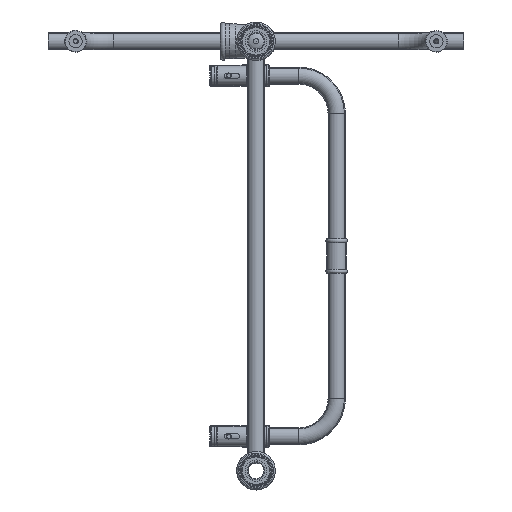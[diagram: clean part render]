
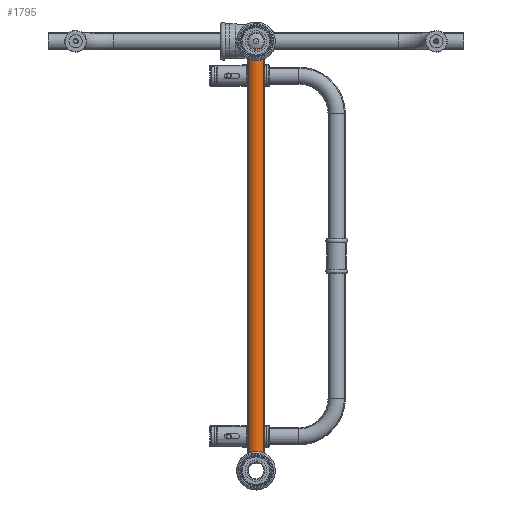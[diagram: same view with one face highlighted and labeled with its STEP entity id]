
A CAD part, front view. The second image highlights one B-rep face of the part: STEP entity #1795.
In plain terms, the highlighted cylindrical face has radius 10 mm (diameter 20 mm), a full revolution.
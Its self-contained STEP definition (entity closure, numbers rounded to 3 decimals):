
#1795 = ADVANCED_FACE( '', ( #3786, #3787 ), #3788, .T. );
#3786 = FACE_OUTER_BOUND( '', #6125, .T. );
#3787 = FACE_OUTER_BOUND( '', #6126, .T. );
#3788 = CYLINDRICAL_SURFACE( '', #6127, 10. );
#6125 = EDGE_LOOP( '', ( #9080 ) );
#6126 = EDGE_LOOP( '', ( #9081 ) );
#6127 = AXIS2_PLACEMENT_3D( '', #9082, #9083, #9084 );
#9080 = ORIENTED_EDGE( '', *, *, #10035, .T. );
#9081 = ORIENTED_EDGE( '', *, *, #10254, .F. );
#9082 = CARTESIAN_POINT( '', ( 242., 0., 0. ) );
#9083 = DIRECTION( '', ( 1., 0., 0. ) );
#9084 = DIRECTION( '', ( 0., 0., 1. ) );
#10035 = EDGE_CURVE( '', #11238, #11238, #11239, .T. );
#10254 = EDGE_CURVE( '', #11583, #11583, #11584, .T. );
#11238 = VERTEX_POINT( '', #16405 );
#11239 = CIRCLE( '', #16406, 10. );
#11583 = VERTEX_POINT( '', #19340 );
#11584 = CIRCLE( '', #19341, 10. );
#16405 = CARTESIAN_POINT( '', ( 242., 10., 0. ) );
#16406 = AXIS2_PLACEMENT_3D( '', #27328, #27329, #27330 );
#19340 = CARTESIAN_POINT( '', ( -242., 10., 0. ) );
#19341 = AXIS2_PLACEMENT_3D( '', #27615, #27616, #27617 );
#27328 = CARTESIAN_POINT( '', ( 242., 0., 0. ) );
#27329 = DIRECTION( '', ( -1., 0., 0. ) );
#27330 = DIRECTION( '', ( 0., 1., 0. ) );
#27615 = CARTESIAN_POINT( '', ( -242., 0., 0. ) );
#27616 = DIRECTION( '', ( -1., 0., 0. ) );
#27617 = DIRECTION( '', ( 0., 1., 0. ) );
